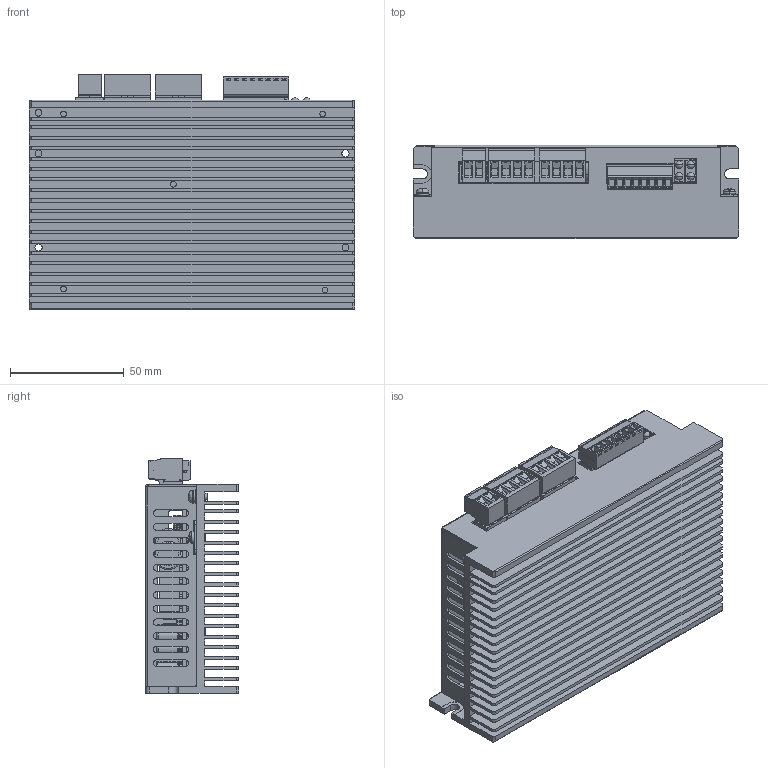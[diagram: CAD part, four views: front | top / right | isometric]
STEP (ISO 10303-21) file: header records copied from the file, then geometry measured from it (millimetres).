
FILE_DESCRIPTION((''),'2;1');
FILE_NAME('YKE2405M-2A_ASM','2024-01-24T09:15:03',('Admin'),(''),'CREO PARAMETRIC BY PTC INC, 2020074','CREO PARAMETRIC BY PTC INC, 2020074','');
FILE_SCHEMA(('CONFIG_CONTROL_DESIGN'));
Products named in the file (21): USB-MINI-B_1; LHY3302-3-2PIN_1; 2EDGRC-5_08-02P-14-100AH_1; 2EDGR-5_08-04P-14-100A_H__2; 15EDGRC-3_5-08P-14-00A_H__1; YKE2405M-2A-PCB_ASM_12_ASM; YKE2405M-2A_SW0001_1_2; YKE2405M-2A_SW0001_1_3; YKE2405M-2A_SW0001_1_4; YKE2405M-2A_SW0001_1_5; YKE2405M-2A_SW0001_1_6; YKE2405M-2A_SW0001_1_7; YKE2405M-2A_SW0001_1_8; YKE2405M-2A_SW0001_1_9; YKE2405M-2A_SW0001_1_10; YKE2405M-2A_SW0001_1_11; YKE2405M-2A_SW0001_1_12; YKE2405M-2A_SW0001_1_ASM; YKE2405M-2A_ASM_14_ASM; YKE2605M-2A-IO; YKE2405M-2A_ASM
Assembly tree (23 placements, depth 4):
  YKE2405M-2A_ASM
    YKE2405M-2A_ASM_14_ASM
      YKE2405M-2A-PCB_ASM_12_ASM
        USB-MINI-B_1  x2
        LHY3302-3-2PIN_1  x2
        2EDGRC-5_08-02P-14-100AH_1
        2EDGR-5_08-04P-14-100A_H__2  x2
        15EDGRC-3_5-08P-14-00A_H__1
      YKE2405M-2A_SW0001_1_ASM
        YKE2405M-2A_SW0001_1_2
        YKE2405M-2A_SW0001_1_3
        YKE2405M-2A_SW0001_1_4
        YKE2405M-2A_SW0001_1_5
        YKE2405M-2A_SW0001_1_6
        YKE2405M-2A_SW0001_1_7
        YKE2405M-2A_SW0001_1_8
        YKE2405M-2A_SW0001_1_9
        YKE2405M-2A_SW0001_1_10
        YKE2405M-2A_SW0001_1_11
        YKE2405M-2A_SW0001_1_12
    YKE2605M-2A-IO
Bounding box: 143 x 41 x 103.24 mm (x, y, z)
Volume: 186080.2 mm3; surface area: 200773.5 mm2
Topology: 20 solids, 20 shells, 7759 faces, 22468 edges, 15115 vertices
Faces by surface type: plane 6064, cylinder 1252, torus 190, cone 120, sphere 82, bspline 46, extrusion 5
Full cylindrical faces by diameter (mm): 0.9 x2
Entity records: 228900 total; most frequent: CARTESIAN_POINT 46622, ORIENTED_EDGE 39486, DIRECTION 35464, EDGE_CURVE 19743, VECTOR 15428, LINE 15423, VERTEX_POINT 13372, AXIS2_PLACEMENT_3D 10018
